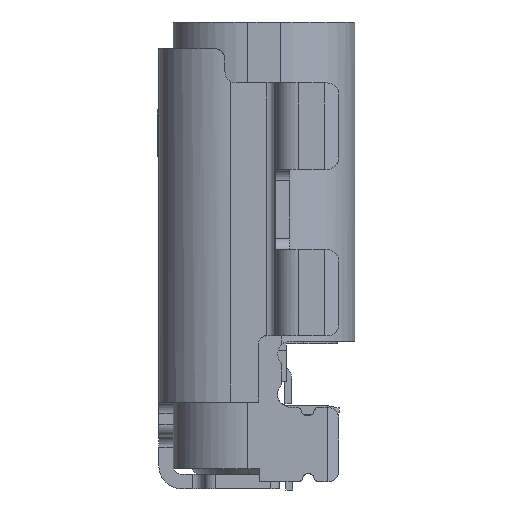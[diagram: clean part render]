
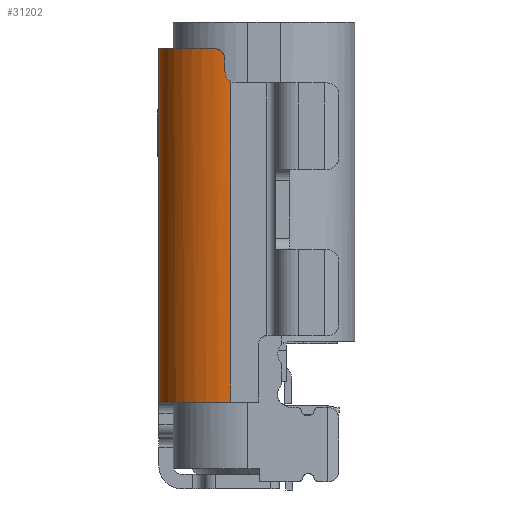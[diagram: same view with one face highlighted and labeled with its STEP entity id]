
A CAD part, left-side view. The second image highlights one B-rep face of the part: STEP entity #31202.
In plain terms, the highlighted cylindrical face has radius 1.25 mm (diameter 2.5 mm), a partial arc.
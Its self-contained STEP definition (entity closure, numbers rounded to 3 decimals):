
#30719=CARTESIAN_POINT('',(-4.74,-1.12,6.427));
#30720=VERTEX_POINT('',#30719);
#30728=CARTESIAN_POINT('',(-4.74,-1.12,0.85));
#30729=VERTEX_POINT('',#30728);
#30730=CARTESIAN_POINT('',(-4.74,-1.12,16.986));
#30731=DIRECTION('',(0.0,0.0,1.0));
#30732=VECTOR('',#30731,1.0);
#30733=LINE('',#30730,#30732);
#30734=EDGE_CURVE('no 7872',#30729,#30720,#30733,.T.);
#30776=CARTESIAN_POINT('',(-3.49,0.13,0.85));
#30777=VERTEX_POINT('',#30776);
#30778=CARTESIAN_POINT('',(-3.49,-1.12,0.85));
#30779=DIRECTION('',(0.0,0.0,1.0));
#30780=DIRECTION('',(-1.0,-0.0,0.0));
#30781=AXIS2_PLACEMENT_3D('',#30778,#30779,#30780);
#30782=CIRCLE('',#30781,1.25);
#30783=EDGE_CURVE('no 9975',#30777,#30729,#30782,.T.);
#30892=CARTESIAN_POINT('',(-4.736,-1.02,6.6));
#30893=VERTEX_POINT('',#30892);
#30894=CARTESIAN_POINT('',(-4.74,-1.12,6.427));
#30895=CARTESIAN_POINT('',(-4.74,-1.059,6.462));
#30896=CARTESIAN_POINT('',(-4.736,-1.02,6.529));
#30897=CARTESIAN_POINT('',(-4.736,-1.02,6.6));
#30898=B_SPLINE_CURVE_WITH_KNOTS('',3,(#30894,#30895,#30896,#30897),.UNSPECIFIED.,.F.,.U.,
 (4,4),(0.0,1.0),.UNSPECIFIED.);
#30899=EDGE_CURVE('no 23391',#30720,#30893,#30898,.T.);
#31154=CARTESIAN_POINT('',(-3.49,0.13,7.0));
#31155=VERTEX_POINT('',#31154);
#31156=CARTESIAN_POINT('',(-4.703,-0.82,7.0));
#31157=VERTEX_POINT('',#31156);
#31158=CARTESIAN_POINT('',(-3.49,-1.12,7.0));
#31159=DIRECTION('',(0.0,0.0,1.0));
#31160=DIRECTION('',(-1.0,-0.0,0.0));
#31161=AXIS2_PLACEMENT_3D('',#31158,#31159,#31160);
#31162=CIRCLE('',#31161,1.25);
#31163=EDGE_CURVE('no 373',#31155,#31157,#31162,.T.);
#31164=ORIENTED_EDGE('no 8492',*,*,#31163,.F.);
#31165=CARTESIAN_POINT('',(-3.49,0.13,0.0));
#31166=DIRECTION('',(0.0,0.0,1.0));
#31167=VECTOR('',#31166,1.0);
#31168=LINE('',#31165,#31167);
#31169=EDGE_CURVE('no 27807',#30777,#31155,#31168,.T.);
#31170=ORIENTED_EDGE('no 23896',*,*,#31169,.F.);
#31171=ORIENTED_EDGE('no 5724',*,*,#30783,.T.);
#31172=ORIENTED_EDGE('no 16428',*,*,#30734,.T.);
#31173=ORIENTED_EDGE('no 19718',*,*,#30899,.T.);
#31174=CARTESIAN_POINT('',(-4.736,-1.02,6.8));
#31175=VERTEX_POINT('',#31174);
#31176=CARTESIAN_POINT('',(-4.736,-1.02,0.0));
#31177=DIRECTION('',(0.0,0.0,1.0));
#31178=VECTOR('',#31177,1.0);
#31179=LINE('',#31176,#31178);
#31180=EDGE_CURVE('no 25159',#30893,#31175,#31179,.T.);
#31181=ORIENTED_EDGE('no 4581',*,*,#31180,.T.);
#31182=CARTESIAN_POINT('',(-4.703,-0.82,7.0));
#31183=CARTESIAN_POINT('',(-4.71,-0.846,7.0));
#31184=CARTESIAN_POINT('',(-4.715,-0.872,6.995));
#31185=CARTESIAN_POINT('',(-4.722,-0.908,6.98));
#31186=CARTESIAN_POINT('',(-4.724,-0.919,6.974));
#31187=CARTESIAN_POINT('',(-4.727,-0.941,6.96));
#31188=CARTESIAN_POINT('',(-4.729,-0.953,6.95));
#31189=CARTESIAN_POINT('',(-4.734,-0.993,6.91));
#31190=CARTESIAN_POINT('',(-4.736,-1.02,6.86));
#31191=CARTESIAN_POINT('',(-4.736,-1.02,6.8));
#31192=B_SPLINE_CURVE_WITH_KNOTS('',3,(#31182,#31183,#31184,#31185,#31186,#31187,#31188,#31189,#31190,#31191),.UNSPECIFIED.,.F.,.U.,
 (4,2,2,2,4),(0.0,0.25,0.375,0.5,1.0),.UNSPECIFIED.);
#31193=EDGE_CURVE('no 18520',#31157,#31175,#31192,.T.);
#31194=ORIENTED_EDGE('no 4702',*,*,#31193,.F.);
#31195=EDGE_LOOP('',(#31164,#31170,#31171,#31172,#31173,#31181,#31194));
#31196=FACE_OUTER_BOUND('',#31195,.T.);
#31197=CARTESIAN_POINT('',(-3.49,-1.12,16.986));
#31198=DIRECTION('',(0.0,0.0,-1.0));
#31199=DIRECTION('',(0.707,-0.707,0.0));
#31200=AXIS2_PLACEMENT_3D('',#31197,#31198,#31199);
#31201=CYLINDRICAL_SURFACE('',#31200,1.25);
#31202=ADVANCED_FACE('no 26164',(#31196),#31201,.T.);
